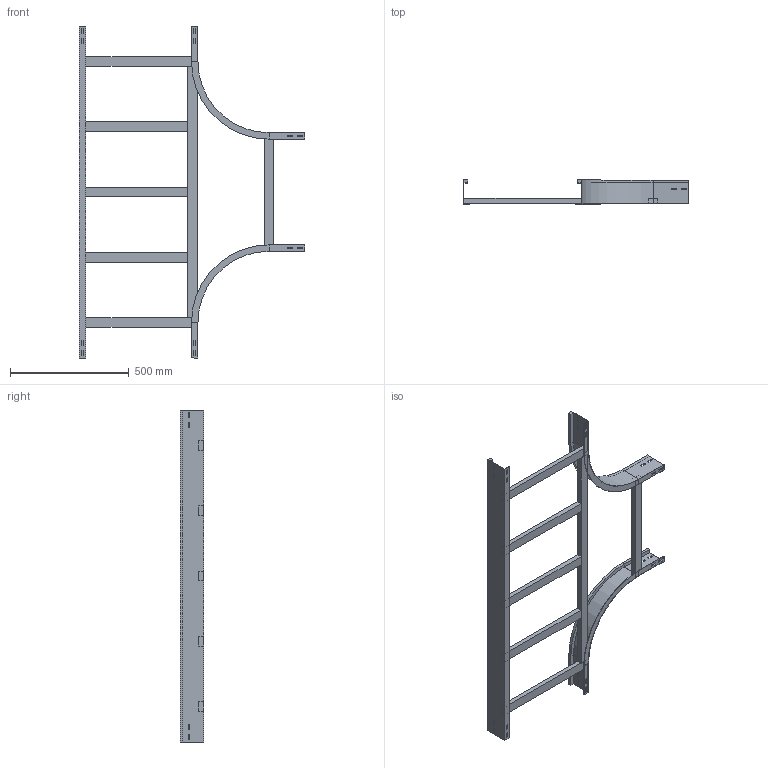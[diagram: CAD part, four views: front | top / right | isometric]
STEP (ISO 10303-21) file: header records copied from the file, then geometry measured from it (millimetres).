
FILE_DESCRIPTION (( 'STEP AP214' ), '1' );
FILE_NAME ('A2_15B3D500.step', '2025-02-21T15:49:40', ( '' ), ( '' ), 'SwSTEP 2.0', 'SolidWorks 2023', '' );
FILE_SCHEMA (( 'AUTOMOTIVE_DESIGN' ));
Length unit declared in the file: millimetre
Products named in the file (6): A2_LONGH.RETT_H100_R300+500; A2_15B3D500; A2_TRAVERSINO_LONG._R300+500; TRAVERSINO_500; A2_LONGH.INTERNO 90°_H100_R300; TRAVERSINO_INTERMEDIO_R300+500
Assembly tree (10 placements, depth 2):
  A2_15B3D500
    A2_LONGH.INTERNO 90°_H100_R300  x2
    A2_LONGH.RETT_H100_R300+500
    TRAVERSINO_500  x3
    A2_TRAVERSINO_LONG._R300+500
    TRAVERSINO_INTERMEDIO_R300+500  x3
Bounding box: 950 x 100 x 1400 mm (x, y, z)
Volume: 4472461 mm3; surface area: 1329210.8 mm2
Topology: 10 solids, 10 shells, 200 faces, 508 edges, 328 vertices
Faces by surface type: plane 192, cylinder 8
Entity records: 3823 total; most frequent: CARTESIAN_POINT 639, ORIENTED_EDGE 616, DIRECTION 578, EDGE_CURVE 308, VECTOR 300, LINE 300, VERTEX_POINT 200, EDGE_LOOP 150
